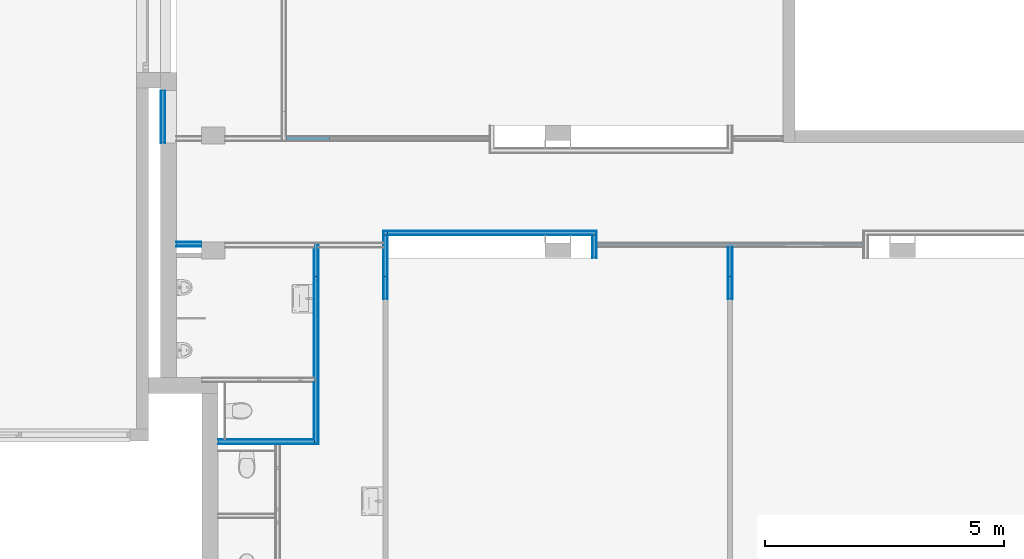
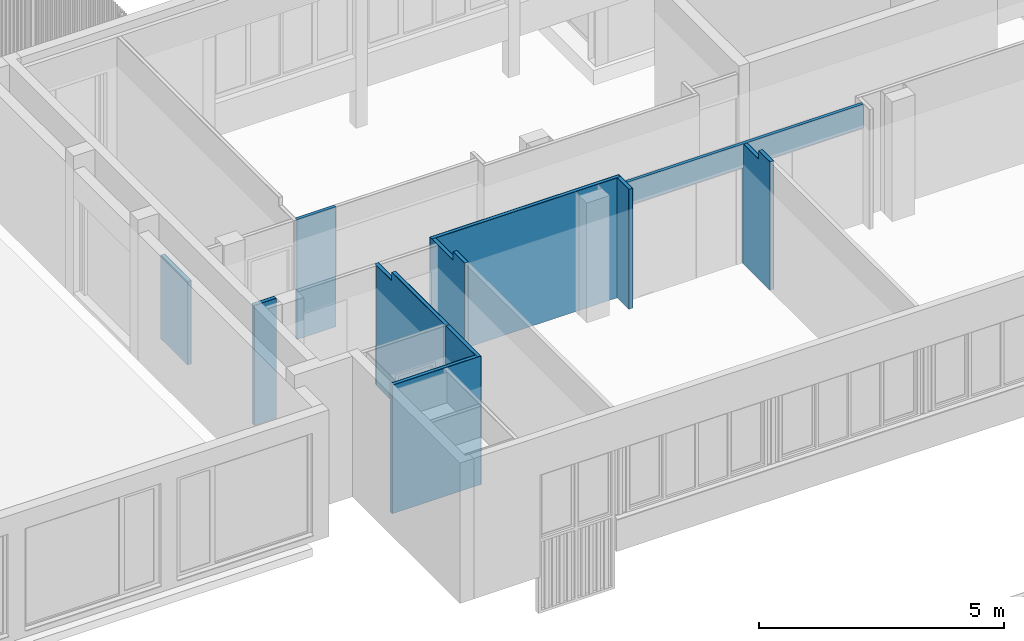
# One storey, part 57 of 99: 29 building element parts, 2 openings, 11 elements without a shape of their own.
"""IFC2X3 building model written with IfcOpenShell, lengths in millimetres."""

from ifc_helpers import new_model, entity, si_unit, converted_unit, derived_unit, money_unit, direction, frame, origin_with_axes, place, context, subcontext, project, spatial, faceted_brep, material, type_object, element, aggregate, save


model = new_model("IFC2X3")

# Units and contexts
model_context = context("Model", 3, precision=0.01, world=origin_with_axes(), true_north=direction((0.0, 1.0)))
body_context = subcontext(model_context, "Body", "Model", "MODEL_VIEW")
ifc_project = project(units=[si_unit("LENGTHUNIT", "METRE", prefix="MILLI"), si_unit("AREAUNIT", "SQUARE_METRE"), si_unit("VOLUMEUNIT", "CUBIC_METRE"), converted_unit("PLANEANGLEUNIT", "DEGREE", entity("IfcPlaneAngleMeasure", 0.0174532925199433), si_unit("PLANEANGLEUNIT", "RADIAN"), dimensions=[0, 0, 0, 0, 0, 0, 0]), money_unit("EUR"), converted_unit("TIMEUNIT", "Year", entity("IfcTimeMeasure", 31557600.0), si_unit("TIMEUNIT", "SECOND"), dimensions=[0, 0, 1, 0, 0, 0, 0]), si_unit("MASSUNIT", "GRAM", prefix="KILO"), si_unit("THERMODYNAMICTEMPERATUREUNIT", "DEGREE_CELSIUS"), si_unit("LUMINOUSINTENSITYUNIT", "LUMEN"), si_unit("ENERGYUNIT", "JOULE", prefix="MEGA"), derived_unit("THERMALCONDUCTANCEUNIT", [(si_unit("POWERUNIT", "WATT"), 1), (si_unit("LENGTHUNIT", "METRE"), -1), (si_unit("THERMODYNAMICTEMPERATUREUNIT", "KELVIN"), -1)]), derived_unit("SPECIFICHEATCAPACITYUNIT", [(si_unit("ENERGYUNIT", "JOULE"), 1), (si_unit("MASSUNIT", "GRAM", prefix="KILO"), -1), (si_unit("THERMODYNAMICTEMPERATUREUNIT", "KELVIN"), -1)]), derived_unit("MASSDENSITYUNIT", [(si_unit("MASSUNIT", "GRAM", prefix="KILO"), 1), (si_unit("VOLUMEUNIT", "CUBIC_METRE"), -1)])], contexts=[model_context])

# Site, building, storey
site_placement = place(None, origin_with_axes())
site = spatial("IfcSite", under=ifc_project, at=site_placement, Name="Site", CompositionType="ELEMENT")
building_placement = place(site_placement, origin_with_axes())
building = spatial("IfcBuilding", under=site, at=building_placement, Name="Naam gebouw", CompositionType="ELEMENT")
storey_placement = place(building_placement, frame((0.0, 0.0, 7650.0), z_axis=(0.0, 0.0, 1.0), x_axis=(1.0, 0.0, 0.0)))
storey = spatial("IfcBuildingStorey", under=building, at=storey_placement, Name="2e verdieping N", CompositionType="ELEMENT", Elevation=7650.0)

# Wall, building element parts
wall_type = type_object("IfcWallType", Name="Metalstud iso 100 100", PredefinedType="NOTDEFINED")
wall_1_placement = place(storey_placement, frame((-1100.036872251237, 12735.57331875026, 309.9999999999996), z_axis=(0.0, 0.0, 1.0), x_axis=(-3.582912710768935e-05, 0.9999999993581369, 0.0)))
wall_1 = element("IfcWall", 1, at=wall_1_placement, inside=storey, type_object=wall_type, Name="_Wand-x")
ifc_material_1 = material(Name="Gipsplaat")
building_element_part_1_placement = place(wall_1_placement, origin_with_axes())
building_element_part_1 = element("IfcBuildingElementPart", 2, at=building_element_part_1_placement, material=ifc_material_1, Name="Gipsplaat", context=body_context, shape_type="Brep", body=[
    faceted_brep([(1095.001706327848, 0.0, 0.0), (1095.001706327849, -12.49999999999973, 0.0), (0.0, -12.49999999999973, 0.0), (0.0, 0.0, 0.0), (1095.001706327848, 0.0, 2080.000000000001), (1095.001706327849, -12.49999999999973, 2080.000000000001), (0.0, -12.49999999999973, 2080.000000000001), (0.0, 0.0, 2080.000000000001)], [[[0, 1, 2, 3]], [[0, 4, 5, 1]], [[1, 5, 6, 2]], [[3, 2, 6, 7]], [[4, 0, 3, 7]], [[5, 4, 7, 6]]]),
])
ifc_material_2 = material(Name="Isolatie - Steenwol LSW")
building_element_part_2_placement = place(wall_1_placement, origin_with_axes())
building_element_part_2 = element("IfcBuildingElementPart", 3, at=building_element_part_2_placement, material=ifc_material_2, Name="Isolatie - Steenwol LSW", context=body_context, shape_type="Brep", body=[
    faceted_brep([(1095.001706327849, -12.49999999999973, 0.0), (1095.001706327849, -87.49999999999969, 0.0), (0.0, -87.49999999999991, 0.0), (0.0, -12.49999999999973, 0.0), (1095.001706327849, -12.49999999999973, 2080.000000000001), (1095.001706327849, -87.49999999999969, 2080.000000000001), (0.0, -87.49999999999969, 2080.000000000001), (0.0, -12.49999999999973, 2080.000000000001)], [[[0, 1, 2, 3]], [[0, 4, 5, 1]], [[1, 5, 6, 2]], [[3, 2, 6, 7]], [[4, 0, 3, 7]], [[5, 4, 7, 6]]]),
])
building_element_part_3_placement = place(wall_1_placement, origin_with_axes())
building_element_part_3 = element("IfcBuildingElementPart", 4, at=building_element_part_3_placement, material=ifc_material_1, Name="Gipsplaat", context=body_context, shape_type="Brep", body=[
    faceted_brep([(1095.001706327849, -87.49999999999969, 0.0), (1095.001706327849, -99.99999999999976, 0.0), (0.0, -99.99999999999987, 0.0), (0.0, -87.49999999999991, 0.0), (1095.001706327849, -87.49999999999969, 2080.000000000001), (1095.001706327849, -99.99999999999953, 2080.000000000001), (0.0, -99.99999999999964, 2080.000000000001), (0.0, -87.49999999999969, 2080.000000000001)], [[[0, 1, 2, 3]], [[0, 4, 5, 1]], [[1, 5, 6, 2]], [[3, 2, 6, 7]], [[4, 0, 3, 7]], [[5, 4, 7, 6]]]),
])
aggregate(wall_1, [building_element_part_1, building_element_part_2, building_element_part_3])

wall_2_placement = place(storey_placement, frame((100.000080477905, 6495.658971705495, 0.0), z_axis=(0.0, 0.0, 1.0), x_axis=(1.0, 0.0, 0.0)))
wall_2 = element("IfcWall", 5, at=wall_2_placement, inside=storey, type_object=wall_type, Name="_Wand-x")
building_element_part_4_placement = place(wall_2_placement, origin_with_axes())
building_element_part_4 = element("IfcBuildingElementPart", 6, at=building_element_part_4_placement, material=ifc_material_2, Name="Isolatie - Steenwol LSW", context=body_context, shape_type="Brep", body=[
    faceted_brep([(2012.499919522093, 37.50000000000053, 3199.999999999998), (-3.664386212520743e-05, 37.50000000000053, 3199.999999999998), (-3.664386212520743e-05, -37.49999999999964, 3199.999999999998), (2012.499919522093, -37.49999999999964, 3199.999999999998), (2012.499919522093, 37.50000000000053, 0.0), (-3.664386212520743e-05, 37.49999999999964, 0.0), (-3.664386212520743e-05, -37.49999999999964, 0.0), (2012.499919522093, -37.49999999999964, 0.0)], [[[0, 1, 2, 3]], [[4, 5, 1, 0]], [[2, 1, 5, 6]], [[3, 2, 6, 7]], [[3, 7, 4, 0]], [[7, 6, 5, 4]]]),
])
building_element_part_5_placement = place(wall_2_placement, origin_with_axes())
building_element_part_5 = element("IfcBuildingElementPart", 7, at=building_element_part_5_placement, material=ifc_material_1, Name="Gipsplaat", context=body_context, shape_type="Brep", body=[
    faceted_brep([(1999.999919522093, 50.00000000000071, 3199.999999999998), (-3.664386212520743e-05, 49.99999999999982, 3199.999999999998), (-3.664386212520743e-05, 37.50000000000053, 3199.999999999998), (1999.999919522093, 37.50000000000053, 3199.999999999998), (1999.999919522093, 49.99999999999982, 0.0), (-3.664386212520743e-05, 49.99999999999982, 0.0), (-3.664386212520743e-05, 37.49999999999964, 0.0), (1999.999919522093, 37.50000000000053, 0.0)], [[[0, 1, 2, 3]], [[4, 5, 1, 0]], [[2, 1, 5, 6]], [[3, 2, 6, 7]], [[3, 7, 4, 0]], [[7, 6, 5, 4]]]),
])
building_element_part_6_placement = place(wall_2_placement, origin_with_axes())
building_element_part_6 = element("IfcBuildingElementPart", 8, at=building_element_part_6_placement, material=ifc_material_1, Name="Gipsplaat", context=body_context, shape_type="Brep", body=[
    faceted_brep([(2087.499919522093, -37.49999999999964, 3199.999999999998), (-3.664386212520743e-05, -37.49999999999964, 3199.999999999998), (-3.664386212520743e-05, -49.99999999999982, 3199.999999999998), (2087.499919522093, -49.99999999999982, 3199.999999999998), (2087.499919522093, -37.49999999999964, 0.0), (-3.664386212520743e-05, -37.49999999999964, 0.0), (-3.664386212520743e-05, -49.99999999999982, 0.0), (2087.499919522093, -49.99999999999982, 0.0)], [[[0, 1, 2, 3]], [[4, 5, 1, 0]], [[2, 1, 5, 6]], [[3, 2, 6, 7]], [[3, 7, 4, 0]], [[7, 6, 5, 4]]]),
])
aggregate(wall_2, [building_element_part_4, building_element_part_5, building_element_part_6])

wall_3_placement = place(storey_placement, frame((2099.999999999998, 6495.658971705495, 0.0), z_axis=(0.0, 0.0, 1.0), x_axis=(0.0, 1.0, 0.0)))
wall_3 = element("IfcWall", 9, at=wall_3_placement, inside=storey, type_object=wall_type, Name="_Wand-x")
building_element_part_7_placement = place(wall_3_placement, origin_with_axes())
building_element_part_7 = element("IfcBuildingElementPart", 10, at=building_element_part_7_placement, material=ifc_material_2, Name="Isolatie - Steenwol LSW", context=body_context, shape_type="Brep", body=[
    faceted_brep([(1240.120870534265, -87.49999999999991, 0.0), (1240.120870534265, -87.49999999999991, 3199.999999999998), (-37.49999999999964, -87.49999999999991, 3199.999999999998), (-37.49999999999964, -87.49999999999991, 0.0), (1240.120870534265, -12.49999999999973, 3199.999999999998), (1240.120870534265, -12.50000000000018, 0.0), (-37.49999999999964, -12.49999999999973, 3199.999999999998), (-37.49999999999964, -12.50000000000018, 0.0)], [[[0, 1, 2, 3]], [[4, 1, 0, 5]], [[1, 4, 6, 2]], [[2, 6, 7, 3]], [[5, 0, 3, 7]], [[4, 5, 7, 6]]]),
])
building_element_part_8_placement = place(wall_3_placement, origin_with_axes())
building_element_part_8 = element("IfcBuildingElementPart", 11, at=building_element_part_8_placement, material=ifc_material_1, Name="Gipsplaat", context=body_context, shape_type="Brep", body=[
    faceted_brep([(-49.99999999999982, -87.49999999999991, 3199.999999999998), (-49.99999999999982, -99.99999999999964, 3199.999999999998), (1440.120870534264, -99.99999999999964, 3199.999999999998), (1440.120870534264, -87.49999999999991, 3199.999999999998), (-49.99999999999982, -87.49999999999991, 0.0), (-49.99999999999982, -100.0000000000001, 0.0), (1440.120870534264, -100.0000000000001, 0.0), (1440.120870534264, -87.49999999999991, 0.0)], [[[0, 1, 2, 3]], [[1, 0, 4, 5]], [[1, 5, 6, 2]], [[7, 3, 2, 6]], [[4, 0, 3, 7]], [[5, 4, 7, 6]]]),
])
building_element_part_9_placement = place(wall_3_placement, origin_with_axes())
building_element_part_9 = element("IfcBuildingElementPart", 12, at=building_element_part_9_placement, material=ifc_material_1, Name="Gipsplaat", context=body_context, shape_type="Brep", body=[
    faceted_brep([(1240.120870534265, -12.50000000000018, 0.0), (1240.120870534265, -12.49999999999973, 3199.999999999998), (37.49999999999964, -12.49999999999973, 3199.999999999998), (37.49999999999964, -12.50000000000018, 0.0), (1240.120870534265, 0.0, 3199.999999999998), (1240.120870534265, 0.0, 0.0), (37.49999999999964, 0.0, 3199.999999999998), (37.49999999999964, 0.0, 0.0)], [[[0, 1, 2, 3]], [[4, 1, 0, 5]], [[1, 4, 6, 2]], [[2, 6, 7, 3]], [[5, 0, 3, 7]], [[4, 5, 7, 6]]]),
])
aggregate(wall_3, [building_element_part_7, building_element_part_8, building_element_part_9])

# Wall, openings, building element part
wall_4_placement = place(storey_placement, frame((8015.000000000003, 10605.91242510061, 0.0), z_axis=(0.0, 0.0, 1.0), x_axis=(1.0, 0.0, 0.0)))
wall_4 = element("IfcWall", 13, at=wall_4_placement, inside=storey, type_object=wall_type, Name="_Wand-x")
opening_1_placement = place(wall_4_placement, frame((4202.502004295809, 0.0, 0.0), z_axis=(0.0, 0.0, 1.0), x_axis=(1.0, 0.0, 0.0)))
element("IfcOpeningElement", 14, at=opening_1_placement, cuts=wall_4, Name="_Merk-x", context=body_context, shape_type="Brep", body=[
    faceted_brep([(-1367.497995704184, 9.999999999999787, 0.0), (-1367.497995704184, 9.999999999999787, 2400.0), (-1367.497995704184, 51.00000000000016, 2400.0), (-1367.497995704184, 51.00000000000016, 0.0), (-1367.497995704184, -51.00000000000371, 0.0), (-1367.497995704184, -51.00000000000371, 2400.0), (1367.497995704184, 9.999999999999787, 2400.0), (1367.497995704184, 51.00000000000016, 2400.0), (1367.497995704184, -51.00000000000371, 2400.0), (1367.497995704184, 51.00000000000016, 0.0), (1367.497995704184, 9.99999999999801, 0.0), (1367.497995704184, -51.00000000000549, 0.0)], [[[0, 1, 2, 3]], [[1, 0, 4, 5]], [[6, 7, 2, 1, 5, 8]], [[7, 9, 3, 2]], [[0, 3, 9, 10, 11, 4]], [[5, 4, 11, 8]], [[6, 10, 9, 7]], [[10, 6, 8, 11]]]),
])
opening_2_placement = place(wall_4_placement, frame((1367.502004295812, 0.0, 0.0), z_axis=(0.0, 0.0, 1.0), x_axis=(1.0, 0.0, 0.0)))
element("IfcOpeningElement", 15, at=opening_2_placement, cuts=wall_4, Name="_Merk-x", context=body_context, shape_type="Brep", body=[
    faceted_brep([(-1367.497995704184, 9.999999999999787, 0.0), (-1367.497995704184, 9.999999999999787, 2400.0), (-1367.497995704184, 51.00000000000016, 2400.0), (-1367.497995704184, 51.00000000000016, 0.0), (-1367.497995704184, -51.00000000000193, 0.0), (-1367.497995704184, -51.00000000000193, 2400.0), (1367.497995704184, 9.999999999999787, 2400.0), (1367.497995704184, 51.00000000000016, 2400.0), (1367.497995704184, -51.00000000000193, 2400.0), (1367.497995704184, 51.00000000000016, 0.0), (1367.497995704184, 9.99999999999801, 0.0), (1367.497995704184, -51.00000000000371, 0.0)], [[[0, 1, 2, 3]], [[1, 0, 4, 5]], [[6, 7, 2, 1, 5, 8]], [[7, 9, 3, 2]], [[0, 3, 9, 10, 11, 4]], [[5, 4, 11, 8]], [[6, 10, 9, 7]], [[10, 6, 8, 11]]]),
])
building_element_part_10_placement = place(wall_4_placement, origin_with_axes())
building_element_part_10 = element("IfcBuildingElementPart", 16, at=building_element_part_10_placement, material=ifc_material_2, Name="Isolatie - Steenwol LSW", context=body_context, shape_type="Brep", body=[
    faceted_brep([(2734.999999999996, 9.99999999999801, 0.0), (2734.999999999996, -37.49999999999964, 0.0), (2734.999999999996, -37.49999999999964, 2400.0), (2734.999999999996, 37.49999999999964, 2400.0), (2734.999999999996, 37.49999999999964, 0.0), (2835.004008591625, 37.49999999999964, 0.0), (2835.004008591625, -37.49999999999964, 0.0), (2835.004008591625, -37.49999999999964, 2400.0), (5569.999999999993, -37.49999999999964, 2400.0), (5569.999999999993, -37.49999999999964, 2989.999999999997), (0.0, -37.49999999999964, 2989.999999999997), (0.004008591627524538, -37.49999999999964, 2400.0), (0.004008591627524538, 9.999999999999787, 2400.0), (0.004008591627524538, 37.49999999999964, 2400.0), (2835.004008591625, 37.49999999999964, 2400.0), (0.0, 37.49999999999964, 2989.999999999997), (5569.999999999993, 37.49999999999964, 2989.999999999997), (5569.999999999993, 37.49999999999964, 2400.0)], [[[0, 1, 2, 3, 4]], [[1, 0, 4, 5, 6]], [[2, 1, 6, 7, 8, 9, 10, 11]], [[3, 2, 11, 12, 13]], [[14, 5, 4, 3, 13, 15, 16, 17]], [[5, 14, 7, 6]], [[14, 17, 8, 7]], [[16, 9, 8, 17]], [[16, 15, 10, 9]], [[12, 11, 10, 15, 13]]]),
])
aggregate(wall_4, [building_element_part_10])

# Wall, building element parts
wall_5_placement = place(storey_placement, frame((10800.0, 9475.91242510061, 0.0), z_axis=(0.0, 0.0, 1.0), x_axis=(0.0, 1.0, 0.0)))
wall_5 = element("IfcWall", 17, at=wall_5_placement, inside=storey, type_object=wall_type, Name="_Wand-x")
building_element_part_11_placement = place(wall_5_placement, origin_with_axes())
building_element_part_11 = element("IfcBuildingElementPart", 18, at=building_element_part_11_placement, material=ifc_material_1, Name="Gipsplaat", context=body_context, shape_type="Brep", body=[
    faceted_brep([(1079.999999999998, 49.99999999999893, 2989.999999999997), (1079.999999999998, 37.5000000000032, 2989.999999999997), (1079.999999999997, 37.49999999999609, 0.0), (1079.999999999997, 49.99999999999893, 0.0), (470.0000000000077, 37.49999999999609, 2989.999999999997), (470.0000000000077, 49.99999999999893, 2989.999999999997), (470.0000000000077, 37.49999999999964, 3199.999999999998), (0.0, 37.49999999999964, 3199.999999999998), (0.0, 37.49999999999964, 0.0), (0.0, 49.99999999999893, 0.0), (0.0, 49.99999999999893, 3199.999999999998), (470.0000000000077, 49.99999999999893, 3199.999999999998)], [[[0, 1, 2, 3]], [[4, 1, 0, 5]], [[4, 6, 7, 8, 2, 1]], [[9, 3, 2, 8]], [[5, 0, 3, 9, 10, 11]], [[11, 6, 4, 5]], [[6, 11, 10, 7]], [[7, 10, 9, 8]]]),
])
building_element_part_12_placement = place(wall_5_placement, origin_with_axes())
building_element_part_12 = element("IfcBuildingElementPart", 19, at=building_element_part_12_placement, material=ifc_material_1, Name="Gipsplaat", context=body_context, shape_type="Brep", body=[
    faceted_brep([(1079.999999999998, -37.49999999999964, 2989.999999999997), (1079.999999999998, -50.00000000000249, 2989.999999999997), (1079.999999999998, -50.00000000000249, 0.0), (1079.999999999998, -37.49999999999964, 0.0), (470.0000000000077, -50.00000000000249, 2989.999999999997), (470.0000000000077, -37.49999999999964, 2989.999999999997), (470.0000000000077, -49.99999999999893, 3199.999999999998), (0.0, -49.99999999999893, 3199.999999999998), (0.0, -50.00000000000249, 0.0), (0.0, -37.49999999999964, 0.0), (0.0, -37.49999999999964, 3199.999999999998), (470.0000000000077, -37.49999999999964, 3199.999999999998)], [[[0, 1, 2, 3]], [[4, 1, 0, 5]], [[4, 6, 7, 8, 2, 1]], [[9, 3, 2, 8]], [[5, 0, 3, 9, 10, 11]], [[11, 6, 4, 5]], [[6, 11, 10, 7]], [[7, 10, 9, 8]]]),
])
building_element_part_13_placement = place(wall_5_placement, origin_with_axes())
building_element_part_13 = element("IfcBuildingElementPart", 20, at=building_element_part_13_placement, material=ifc_material_2, Name="Isolatie - Steenwol LSW", context=body_context, shape_type="Brep", body=[
    faceted_brep([(1079.999999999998, 37.5000000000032, 2989.999999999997), (1079.999999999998, -37.49999999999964, 2989.999999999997), (1079.999999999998, -37.49999999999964, 0.0), (1079.999999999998, 37.49999999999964, 0.0), (470.0000000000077, -37.49999999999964, 2989.999999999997), (470.0000000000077, 37.5000000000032, 2989.999999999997), (470.0000000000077, -37.5000000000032, 3199.999999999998), (0.0, -37.49999999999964, 3199.999999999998), (0.0, -37.49999999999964, 0.0), (0.0, 37.49999999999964, 0.0), (0.0, 37.49999999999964, 3199.999999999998), (470.0000000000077, 37.49999999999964, 3199.999999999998)], [[[0, 1, 2, 3]], [[4, 1, 0, 5]], [[4, 6, 7, 8, 2, 1]], [[9, 3, 2, 8]], [[5, 0, 3, 9, 10, 11]], [[11, 6, 4, 5]], [[6, 11, 10, 7]], [[7, 10, 9, 8]]]),
])
aggregate(wall_5, [building_element_part_11, building_element_part_12, building_element_part_13])

wall_6_placement = place(storey_placement, frame((3649.999999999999, 10805.91242510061, 0.0), z_axis=(0.0, 0.0, 1.0), x_axis=(0.0, -1.0, 0.0)))
wall_6 = element("IfcWall", 21, at=wall_6_placement, inside=storey, type_object=wall_type, Name="_Wand-x")
building_element_part_14_placement = place(wall_6_placement, origin_with_axes())
building_element_part_14 = element("IfcBuildingElementPart", 22, at=building_element_part_14_placement, material=ifc_material_1, Name="Gipsplaat", context=body_context, shape_type="Brep", body=[
    faceted_brep([(0.0, -12.49999999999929, 2989.999999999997), (0.0, 0.0, 2989.999999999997), (0.0, 0.0, 2159.999999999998), (0.0, -12.49999999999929, 2159.999999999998), (859.9999999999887, 0.0, 2989.999999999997), (859.9999999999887, -12.49999999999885, 2989.999999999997), (859.9999999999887, 0.0, 3199.999999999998), (1329.999999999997, 0.0, 3199.999999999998), (1329.999999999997, 0.0, 0.0), (-12.50000000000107, 0.0, 0.0), (-12.50000000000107, 0.0, 2159.999999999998), (-12.50000000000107, -12.50000000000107, 2159.999999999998), (-12.50000000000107, -12.50000000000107, 0.0), (1329.999999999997, -12.49999999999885, 0.0), (1329.999999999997, -12.49999999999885, 3199.999999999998), (859.9999999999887, -12.49999999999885, 3199.999999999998)], [[[0, 1, 2, 3]], [[4, 1, 0, 5]], [[4, 6, 7, 8, 9, 10, 2, 1]], [[3, 2, 10, 11]], [[5, 0, 3, 11, 12, 13, 14, 15]], [[15, 6, 4, 5]], [[6, 15, 14, 7]], [[13, 8, 7, 14]], [[13, 12, 9, 8]], [[12, 11, 10, 9]]]),
])
building_element_part_15_placement = place(wall_6_placement, origin_with_axes())
building_element_part_15 = element("IfcBuildingElementPart", 23, at=building_element_part_15_placement, material=ifc_material_2, Name="Isolatie - Steenwol LSW", context=body_context, shape_type="Brep", body=[
    faceted_brep([(-12.50000000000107, -87.50000000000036, 2989.999999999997), (-12.50000000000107, -12.49999999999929, 2989.999999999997), (-12.50000000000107, -12.49999999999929, 2159.999999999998), (-12.50000000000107, -87.50000000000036, 2159.999999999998), (859.9999999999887, -12.49999999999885, 2989.999999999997), (859.9999999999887, -87.49999999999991, 2989.999999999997), (859.9999999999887, -12.5000000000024, 3199.999999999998), (1329.999999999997, -12.49999999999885, 3199.999999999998), (1329.999999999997, -12.49999999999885, 0.0), (-87.50000000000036, -12.50000000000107, 0.0), (-87.50000000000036, -12.49999999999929, 2159.999999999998), (-87.50000000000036, -87.50000000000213, 2159.999999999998), (-87.50000000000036, -87.50000000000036, 0.0), (1329.999999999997, -87.49999999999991, 0.0), (1329.999999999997, -87.49999999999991, 3199.999999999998), (859.9999999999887, -87.49999999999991, 3199.999999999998)], [[[0, 1, 2, 3]], [[4, 1, 0, 5]], [[4, 6, 7, 8, 9, 10, 2, 1]], [[3, 2, 10, 11]], [[5, 0, 3, 11, 12, 13, 14, 15]], [[15, 6, 4, 5]], [[6, 15, 14, 7]], [[13, 8, 7, 14]], [[13, 12, 9, 8]], [[12, 11, 10, 9]]]),
])
building_element_part_16_placement = place(wall_6_placement, origin_with_axes())
building_element_part_16 = element("IfcBuildingElementPart", 24, at=building_element_part_16_placement, material=ifc_material_1, Name="Gipsplaat", context=body_context, shape_type="Brep", body=[
    faceted_brep([(-87.50000000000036, -99.99999999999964, 2989.999999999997), (-87.50000000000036, -87.50000000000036, 2989.999999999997), (-87.50000000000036, -87.50000000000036, 2159.999999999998), (-87.50000000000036, -99.99999999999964, 2159.999999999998), (859.9999999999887, -87.49999999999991, 2989.999999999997), (859.9999999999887, -99.9999999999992, 2989.999999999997), (859.9999999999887, -87.49999999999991, 3199.999999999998), (1329.999999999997, -87.49999999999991, 3199.999999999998), (1329.999999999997, -87.49999999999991, 0.0), (-100.0000035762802, -87.50000000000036, 0.0), (-99.99999999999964, -87.50000000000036, 2159.999999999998), (-99.99999999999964, -99.99999999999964, 2159.999999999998), (-100.0000035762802, -100.0000071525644, 0.0), (1329.999999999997, -99.9999999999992, 0.0), (1329.999999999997, -99.9999999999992, 3199.999999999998), (859.9999999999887, -99.9999999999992, 3199.999999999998)], [[[0, 1, 2, 3]], [[4, 1, 0, 5]], [[4, 6, 7, 8, 9, 10, 2, 1]], [[3, 2, 10, 11]], [[5, 0, 3, 11, 12, 13, 14, 15]], [[15, 6, 4, 5]], [[6, 15, 14, 7]], [[13, 8, 7, 14]], [[8, 13, 12, 9]], [[12, 11, 10, 9]]]),
])
aggregate(wall_6, [building_element_part_14, building_element_part_15, building_element_part_16])

wall_7_placement = place(storey_placement, frame((3649.999999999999, 10805.91242510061, 0.0), z_axis=(0.0, 0.0, 1.0), x_axis=(1.0, 0.0, 0.0)))
wall_7 = element("IfcWall", 25, at=wall_7_placement, inside=storey, type_object=wall_type, Name="_Wand-x")
building_element_part_17_placement = place(wall_7_placement, origin_with_axes())
building_element_part_17 = element("IfcBuildingElementPart", 26, at=building_element_part_17_placement, material=ifc_material_1, Name="Gipsplaat", context=body_context, shape_type="Brep", body=[
    faceted_brep([(-99.99999999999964, 100.0000007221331, 2989.999999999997), (4365.000000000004, 99.99999999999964, 2989.999999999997), (4365.000000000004, 99.99999999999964, 0.0), (-87.50000000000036, 100.000003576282, 0.0), (-87.50000000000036, 100.000003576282, 2159.999999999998), (-99.99999999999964, 100.000003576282, 2159.999999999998), (4365.000000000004, 87.50000000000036, 2989.999999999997), (-99.99999999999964, 87.50000000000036, 2989.999999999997), (4365.000000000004, 87.50000000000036, 0.0), (-87.50000000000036, 87.50000000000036, 0.0), (-87.50000000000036, 87.50000000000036, 2159.999999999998), (-99.99999999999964, 87.50000000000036, 2159.999999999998)], [[[0, 1, 2, 3, 4, 5]], [[6, 1, 0, 7]], [[1, 6, 8, 2]], [[8, 9, 3, 2]], [[10, 4, 3, 9]], [[11, 5, 4, 10]], [[7, 0, 5, 11]], [[6, 7, 11, 10, 9, 8]]]),
])
building_element_part_18_placement = place(wall_7_placement, origin_with_axes())
building_element_part_18 = element("IfcBuildingElementPart", 27, at=building_element_part_18_placement, material=ifc_material_1, Name="Gipsplaat", context=body_context, shape_type="Brep", body=[
    faceted_brep([(-12.49999999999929, 12.50000000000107, 2989.999999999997), (4277.500000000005, 12.50000000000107, 2989.999999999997), (4277.500000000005, 12.50000000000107, 0.0), (0.0, 12.49999999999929, 0.0), (0.0, 12.50000000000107, 2159.999999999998), (-12.49999999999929, 12.50000000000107, 2159.999999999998), (4277.500000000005, 0.0, 2989.999999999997), (-12.49999999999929, 0.0, 2989.999999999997), (4277.500000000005, 0.0, 0.0), (0.0, 0.0, 0.0), (0.0, 0.0, 2159.999999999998), (-12.49999999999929, 0.0, 2159.999999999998)], [[[0, 1, 2, 3, 4, 5]], [[6, 1, 0, 7]], [[1, 6, 8, 2]], [[8, 9, 3, 2]], [[10, 4, 3, 9]], [[10, 11, 5, 4]], [[7, 0, 5, 11]], [[6, 7, 11, 10, 9, 8]]]),
])
building_element_part_19_placement = place(wall_7_placement, origin_with_axes())
building_element_part_19 = element("IfcBuildingElementPart", 28, at=building_element_part_19_placement, material=ifc_material_2, Name="Isolatie - Steenwol LSW", context=body_context, shape_type="Brep", body=[
    faceted_brep([(-87.50000000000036, 87.50000000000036, 2989.999999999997), (4352.500000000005, 87.50000000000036, 2989.999999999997), (4352.500000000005, 87.50000000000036, 0.0), (-12.50000000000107, 87.50000000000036, 0.0), (-12.49999999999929, 87.50000000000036, 2159.999999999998), (-87.50000000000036, 87.50000000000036, 2159.999999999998), (4352.500000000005, 12.50000000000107, 2989.999999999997), (-87.50000000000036, 12.50000000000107, 2989.999999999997), (4352.500000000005, 12.50000000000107, 0.0), (-12.50000000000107, 12.49999999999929, 0.0), (-12.49999999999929, 12.50000000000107, 2159.999999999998), (-87.50000000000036, 12.50000000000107, 2159.999999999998)], [[[0, 1, 2, 3, 4, 5]], [[6, 1, 0, 7]], [[1, 6, 8, 2]], [[8, 9, 3, 2]], [[10, 4, 3, 9]], [[10, 11, 5, 4]], [[7, 0, 5, 11]], [[6, 7, 11, 10, 9, 8]]]),
])
aggregate(wall_7, [building_element_part_17, building_element_part_18, building_element_part_19])

wall_8_placement = place(storey_placement, frame((7915.000000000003, 10330.91242510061, 0.0), z_axis=(0.0, 0.0, 1.0), x_axis=(0.0, 1.0, 0.0)))
wall_8 = element("IfcWall", 29, at=wall_8_placement, inside=storey, type_object=wall_type, Name="_Wand-x")
building_element_part_20_placement = place(wall_8_placement, origin_with_axes())
building_element_part_20 = element("IfcBuildingElementPart", 30, at=building_element_part_20_placement, material=ifc_material_1, Name="Gipsplaat", context=body_context, shape_type="Brep", body=[
    faceted_brep([(474.9999999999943, 0.0, 2989.999999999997), (474.9999999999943, -12.49999999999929, 2989.999999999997), (474.9999999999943, -12.49999999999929, 0.0), (474.9999999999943, 0.0, 0.0), (0.0, -12.49999999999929, 2989.999999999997), (0.0, 0.0, 2989.999999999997), (0.0, -12.49999999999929, 0.0), (0.0, 0.0, 0.0)], [[[0, 1, 2, 3]], [[4, 1, 0, 5]], [[1, 4, 6, 2]], [[7, 3, 2, 6]], [[5, 0, 3, 7]], [[4, 5, 7, 6]]]),
])
building_element_part_21_placement = place(wall_8_placement, origin_with_axes())
building_element_part_21 = element("IfcBuildingElementPart", 31, at=building_element_part_21_placement, material=ifc_material_2, Name="Isolatie - Steenwol LSW", context=body_context, shape_type="Brep", body=[
    faceted_brep([(487.4999999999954, -12.49999999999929, 2989.999999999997), (487.4999999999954, -87.50000000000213, 2989.999999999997), (487.4999999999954, -87.50000000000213, 0.0), (487.4999999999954, -12.49999999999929, 0.0), (0.0, -87.50000000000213, 2989.999999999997), (0.0, -12.49999999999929, 2989.999999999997), (0.0, -87.50000000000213, 0.0), (0.0, -12.49999999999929, 0.0)], [[[0, 1, 2, 3]], [[4, 1, 0, 5]], [[1, 4, 6, 2]], [[7, 3, 2, 6]], [[5, 0, 3, 7]], [[4, 5, 7, 6]]]),
])
building_element_part_22_placement = place(wall_8_placement, origin_with_axes())
building_element_part_22 = element("IfcBuildingElementPart", 32, at=building_element_part_22_placement, material=ifc_material_1, Name="Gipsplaat", context=body_context, shape_type="Brep", body=[
    faceted_brep([(562.4999999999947, -87.50000000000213, 2989.999999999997), (562.4999999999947, -99.99999999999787, 2989.999999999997), (562.4999999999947, -99.99999999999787, 0.0), (562.4999999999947, -87.50000000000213, 0.0), (0.0, -99.99999999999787, 2989.999999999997), (0.0, -87.50000000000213, 2989.999999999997), (0.0, -99.99999999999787, 0.0), (0.0, -87.50000000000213, 0.0)], [[[0, 1, 2, 3]], [[4, 1, 0, 5]], [[1, 4, 6, 2]], [[7, 3, 2, 6]], [[5, 0, 3, 7]], [[4, 5, 7, 6]]]),
])
aggregate(wall_8, [building_element_part_20, building_element_part_21, building_element_part_22])

wall_9_placement = place(storey_placement, frame((2099.999999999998, 10650.91242510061, 0.0), z_axis=(0.0, 0.0, 1.0), x_axis=(0.0, -1.0, 0.0)))
wall_9 = element("IfcWall", 33, at=wall_9_placement, inside=storey, type_object=wall_type, Name="_Wand-x")
building_element_part_23_placement = place(wall_9_placement, origin_with_axes())
building_element_part_23 = element("IfcBuildingElementPart", 34, at=building_element_part_23_placement, material=ifc_material_1, Name="Gipsplaat", context=body_context, shape_type="Brep", body=[
    faceted_brep([(0.0, 87.49999999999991, 2989.999999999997), (0.0, 100.000000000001, 2989.999999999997), (0.0, 100.000000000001, 0.0), (0.0, 87.49999999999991, 0.0), (704.9999999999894, 99.9999999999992, 2989.999999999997), (704.9999999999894, 87.49999999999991, 2989.999999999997), (704.9999999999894, 100.000000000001, 3199.999999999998), (2715.132582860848, 99.99999999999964, 3199.999999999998), (2715.132582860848, 99.99999999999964, 0.0), (2715.132582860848, 87.50000000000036, 0.0), (2715.132582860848, 87.50000000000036, 3199.999999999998), (704.9999999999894, 87.50000000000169, 3199.999999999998)], [[[0, 1, 2, 3]], [[4, 1, 0, 5]], [[4, 6, 7, 8, 2, 1]], [[2, 8, 9, 3]], [[5, 0, 3, 9, 10, 11]], [[11, 6, 4, 5]], [[6, 11, 10, 7]], [[9, 8, 7, 10]]]),
])
building_element_part_24_placement = place(wall_9_placement, origin_with_axes())
building_element_part_24 = element("IfcBuildingElementPart", 35, at=building_element_part_24_placement, material=ifc_material_2, Name="Isolatie - Steenwol LSW", context=body_context, shape_type="Brep", body=[
    faceted_brep([(12.49999999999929, 12.50000000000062, 2989.999999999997), (12.49999999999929, 87.49999999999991, 2989.999999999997), (12.49999999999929, 87.49999999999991, 0.0), (12.49999999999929, 12.50000000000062, 0.0), (704.9999999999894, 87.49999999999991, 2989.999999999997), (704.9999999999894, 12.49999999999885, 2989.999999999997), (704.9999999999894, 87.50000000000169, 3199.999999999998), (2902.632582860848, 87.50000000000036, 3199.999999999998), (2902.632582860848, 87.50000000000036, 0.0), (2902.632582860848, 12.49999999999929, 0.0), (2902.632582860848, 12.49999999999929, 3199.999999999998), (704.9999999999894, 12.49999999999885, 3199.999999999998)], [[[0, 1, 2, 3]], [[4, 1, 0, 5]], [[4, 6, 7, 8, 2, 1]], [[2, 8, 9, 3]], [[5, 0, 3, 9, 10, 11]], [[11, 6, 4, 5]], [[6, 11, 10, 7]], [[8, 7, 10, 9]]]),
])
building_element_part_25_placement = place(wall_9_placement, origin_with_axes())
building_element_part_25 = element("IfcBuildingElementPart", 36, at=building_element_part_25_placement, material=ifc_material_1, Name="Gipsplaat", context=body_context, shape_type="Brep", body=[
    faceted_brep([(87.50000000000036, 0.0, 2989.999999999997), (87.50000000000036, 12.50000000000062, 2989.999999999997), (87.50000000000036, 12.50000000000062, 0.0), (87.50000000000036, 0.0, 0.0), (704.9999999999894, 12.49999999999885, 2989.999999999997), (704.9999999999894, 0.0, 2989.999999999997), (704.9999999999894, 12.5000000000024, 3199.999999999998), (2827.632582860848, 12.49999999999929, 3199.999999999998), (2827.632582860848, 12.49999999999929, 0.0), (2827.632582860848, 0.0, 0.0), (2827.632582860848, 0.0, 3199.999999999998), (704.9999999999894, 0.0, 3199.999999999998)], [[[0, 1, 2, 3]], [[4, 1, 0, 5]], [[4, 6, 7, 8, 2, 1]], [[2, 8, 9, 3]], [[5, 0, 3, 9, 10, 11]], [[11, 6, 4, 5]], [[6, 11, 10, 7]], [[8, 7, 10, 9]]]),
])
aggregate(wall_9, [building_element_part_23, building_element_part_24, building_element_part_25])

# Wall, building element part
wall_10_placement = place(storey_placement, frame((1529.960858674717, 12875.851705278, 0.0), z_axis=(0.0, 0.0, 1.0), x_axis=(0.9999999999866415, 5.168867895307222e-06, 0.0)))
wall_10 = element("IfcWall", 37, at=wall_10_placement, inside=storey, type_object=wall_type, Name="_Wand-x")
building_element_part_26_placement = place(wall_10_placement, origin_with_axes())
building_element_part_26 = element("IfcBuildingElementPart", 38, at=building_element_part_26_placement, material=ifc_material_2, Name="Isolatie - Steenwol LSW", context=body_context, shape_type="Brep", body=[
    faceted_brep([(-12.50016166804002, -12.49993538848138, 2989.999999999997), (900.0255769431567, -12.50465211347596, 2989.999999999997), (900.0255769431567, -12.50465211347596, 0.0), (-12.50016166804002, -12.49993538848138, 0.0), (900.0251892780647, -87.50465211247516, 2989.999999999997), (-12.50016166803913, -87.4999353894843, 2989.999999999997), (900.0251892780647, -87.50465211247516, 0.0), (-12.50016166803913, -87.4999353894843, 0.0)], [[[0, 1, 2, 3]], [[4, 1, 0, 5]], [[1, 4, 6, 2]], [[3, 2, 6, 7]], [[5, 0, 3, 7]], [[4, 5, 7, 6]]]),
])
aggregate(wall_10, [building_element_part_26])

# Wall, building element parts
wall_11_placement = place(storey_placement, frame((-250.0000000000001, 10673.41242510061, 0.0), z_axis=(0.0, 0.0, 1.0), x_axis=(-1.0, 0.0, 0.0)))
wall_11 = element("IfcWall", 39, at=wall_11_placement, inside=storey, type_object=wall_type, Name="_Wand-x")
building_element_part_27_placement = place(wall_11_placement, origin_with_axes())
building_element_part_27 = element("IfcBuildingElementPart", 40, at=building_element_part_27_placement, material=ifc_material_2, Name="Isolatie - Steenwol LSW", context=body_context, shape_type="Brep", body=[
    faceted_brep([(520.0261485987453, 12.49999999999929, 0.0), (520.0261485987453, 12.49999999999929, 2989.999999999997), (0.0, 12.50000000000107, 2989.999999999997), (0.0, 12.49999999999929, 0.0), (520.0257609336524, 87.50000000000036, 0.0), (520.0257609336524, 87.50000000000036, 2989.999999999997), (0.0, 87.50000000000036, 2989.999999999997), (0.0, 87.50000000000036, 0.0)], [[[0, 1, 2, 3]], [[4, 5, 1, 0]], [[5, 6, 2, 1]], [[3, 2, 6, 7]], [[7, 4, 0, 3]], [[7, 6, 5, 4]]]),
])
building_element_part_28_placement = place(wall_11_placement, origin_with_axes())
building_element_part_28 = element("IfcBuildingElementPart", 41, at=building_element_part_28_placement, material=ifc_material_1, Name="Gipsplaat", context=body_context, shape_type="Brep", body=[
    faceted_brep([(520.0262132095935, 0.0, 0.0), (520.0262132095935, 0.0, 2989.999999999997), (0.0, 0.0, 2989.999999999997), (0.0, 0.0, 0.0), (520.0261485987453, 12.49999999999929, 0.0), (520.0261485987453, 12.49999999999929, 2989.999999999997), (0.0, 12.50000000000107, 2989.999999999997), (0.0, 12.49999999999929, 0.0)], [[[0, 1, 2, 3]], [[4, 5, 1, 0]], [[5, 6, 2, 1]], [[3, 2, 6, 7]], [[7, 4, 0, 3]], [[7, 6, 5, 4]]]),
])
building_element_part_29_placement = place(wall_11_placement, origin_with_axes())
building_element_part_29 = element("IfcBuildingElementPart", 42, at=building_element_part_29_placement, material=ifc_material_1, Name="Gipsplaat", context=body_context, shape_type="Brep", body=[
    faceted_brep([(520.0257609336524, 87.50000000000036, 0.0), (520.0257609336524, 87.50000000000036, 2989.999999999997), (0.0, 87.50000000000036, 2989.999999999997), (0.0, 87.50000000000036, 0.0), (520.0256963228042, 99.99999999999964, 0.0), (520.0256963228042, 99.99999999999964, 2989.999999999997), (0.0, 99.99999999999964, 2989.999999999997), (0.0, 99.99999999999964, 0.0)], [[[0, 1, 2, 3]], [[4, 5, 1, 0]], [[5, 6, 2, 1]], [[3, 2, 6, 7]], [[7, 4, 0, 3]], [[7, 6, 5, 4]]]),
])
aggregate(wall_11, [building_element_part_27, building_element_part_28, building_element_part_29])

save(model, "model.ifc")
